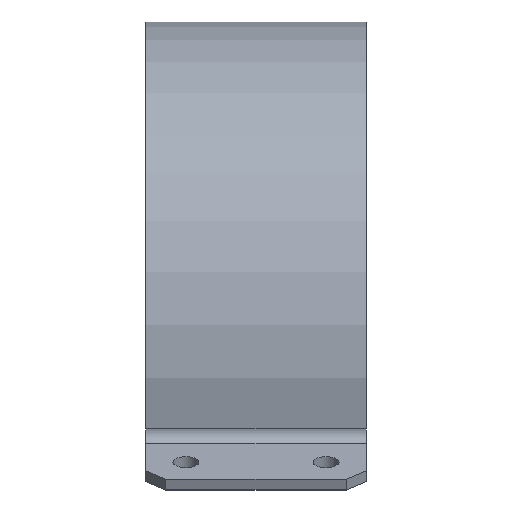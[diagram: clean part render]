
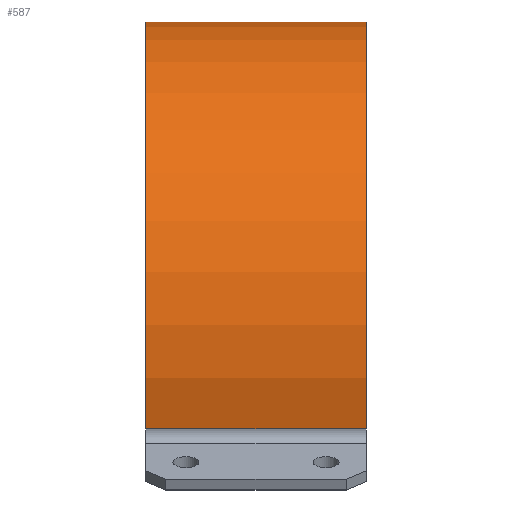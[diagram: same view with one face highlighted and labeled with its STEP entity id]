
A CAD part, front view. The second image highlights one B-rep face of the part: STEP entity #587.
In plain terms, the highlighted cylindrical face has radius 76.5 mm (diameter 153 mm), a partial arc.
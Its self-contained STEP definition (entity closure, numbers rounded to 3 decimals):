
#81=CYLINDRICAL_SURFACE('',#659,76.5);
#98=CIRCLE('',#627,76.5);
#103=CIRCLE('',#635,76.5);
#147=FACE_OUTER_BOUND('',#181,.T.);
#181=EDGE_LOOP('',(#509,#510,#511,#512));
#230=LINE('',#988,#278);
#231=LINE('',#990,#279);
#278=VECTOR('',#803,10.);
#279=VECTOR('',#806,10.);
#300=VERTEX_POINT('',#897);
#301=VERTEX_POINT('',#899);
#311=VERTEX_POINT('',#925);
#312=VERTEX_POINT('',#927);
#349=EDGE_CURVE('',#301,#300,#98,.T.);
#363=EDGE_CURVE('',#312,#311,#103,.T.);
#394=EDGE_CURVE('',#311,#301,#230,.T.);
#395=EDGE_CURVE('',#312,#300,#231,.T.);
#509=ORIENTED_EDGE('',*,*,#349,.T.);
#510=ORIENTED_EDGE('',*,*,#395,.F.);
#511=ORIENTED_EDGE('',*,*,#363,.T.);
#512=ORIENTED_EDGE('',*,*,#394,.T.);
#587=ADVANCED_FACE('',(#147),#81,.T.);
#627=AXIS2_PLACEMENT_3D('',#900,#710,#711);
#635=AXIS2_PLACEMENT_3D('',#928,#735,#736);
#659=AXIS2_PLACEMENT_3D('',#989,#804,#805);
#710=DIRECTION('center_axis',(-1.,0.,0.));
#711=DIRECTION('ref_axis',(0.,0.944,-0.329));
#735=DIRECTION('center_axis',(1.,0.,0.));
#736=DIRECTION('ref_axis',(0.,0.944,-0.329));
#803=DIRECTION('',(1.,0.,0.));
#804=DIRECTION('center_axis',(1.,0.,0.));
#805=DIRECTION('ref_axis',(0.,0.,1.));
#806=DIRECTION('',(1.,0.,0.));
#897=CARTESIAN_POINT('',(27.5,72.234,-43.215));
#899=CARTESIAN_POINT('',(27.5,-72.234,-43.215));
#900=CARTESIAN_POINT('Origin',(27.5,0.,-18.025));
#925=CARTESIAN_POINT('',(-27.5,-72.234,-43.215));
#927=CARTESIAN_POINT('',(-27.5,72.234,-43.215));
#928=CARTESIAN_POINT('Origin',(-27.5,0.,-18.025));
#988=CARTESIAN_POINT('',(0.,-72.234,-43.215));
#989=CARTESIAN_POINT('Origin',(0.,0.,-18.025));
#990=CARTESIAN_POINT('',(0.,72.234,-43.215));
